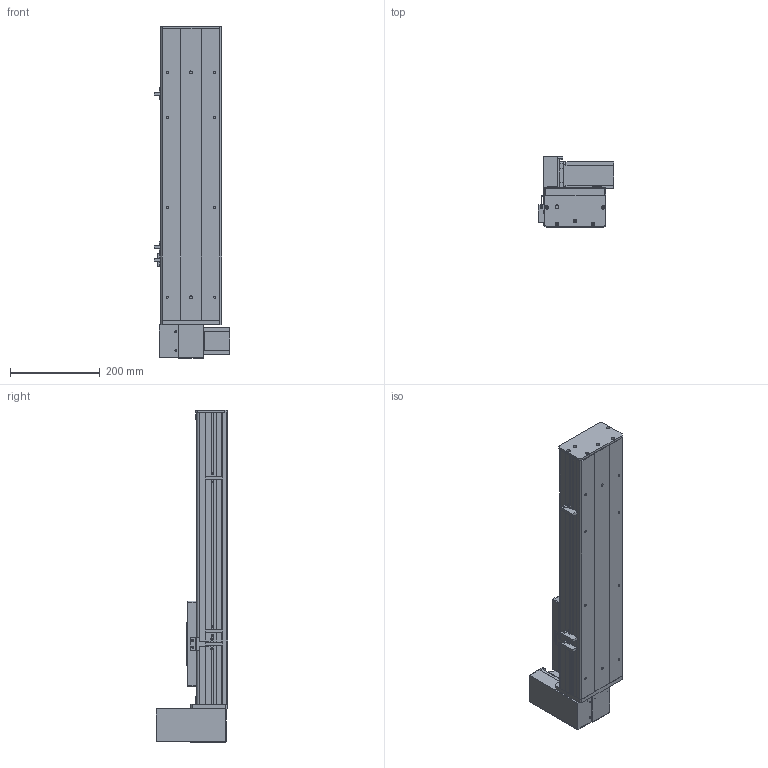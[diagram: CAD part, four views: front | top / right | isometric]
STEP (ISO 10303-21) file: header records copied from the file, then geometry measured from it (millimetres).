
FILE_DESCRIPTION (( 'STEP AP203' ), '1' );
FILE_NAME ('Y135CB-D90-S350-UR-P400W.STEP', '2020-02-18T03:32:31', ( '微软用户' ), ( '微软中国' ), 'SwSTEP 2.0', 'SolidWorks 2017', '' );
FILE_SCHEMA (( 'CONFIG_CONTROL_DESIGN' ));
Length unit declared in the file: millimetre
Products named in the file (18): 35CB---喘謫眊楊擘啣; C-雄赽釱--; 0B-埴倛裔啣; Y10B--々湍喘謫眊--666; 0B-源倛裔啣; Y10B-耜蚾蟀諉啣----; 0B-萇儂楊擘啣; 00B-俋欶BM--; san松下电机400不带刹车----; Y135CB-D90-S350-UR-P400W; 5CB --掛极耜裔啣-; Y100-135俋离換覜ん--; C-詩湍揤踡え-陔; Y135CB-耜裔; Y135C-陔俋离換覜結え-; 135CB--詩湍-CE; 135CB---遴掛极.-; 5C--俋欶
Assembly tree (21 placements, depth 2):
  Y135CB-D90-S350-UR-P400W
    Y135CB-耜裔
    135CB---遴掛极.-
    35CB---喘謫眊楊擘啣
    0B-埴倛裔啣
    0B-源倛裔啣
    0B-萇儂楊擘啣
    san松下电机400不带刹车----
    5CB --掛极耜裔啣-  x2
    C-詩湍揤踡え-陔  x2
    135CB--詩湍-CE
    Y100-135俋离換覜ん--  x3
    Y135C-陔俋离換覜結え-
    5C--俋欶
    C-雄赽釱--
    Y10B--々湍喘謫眊--666
    Y10B-耜蚾蟀諉啣----
    00B-俋欶BM--
Bounding box: 167.5 x 158.7 x 738 mm (x, y, z)
Volume: 2698403.4 mm3; surface area: 1038606.4 mm2
Topology: 21 solids, 21 shells, 933 faces, 2473 edges, 1638 vertices
Faces by surface type: cylinder 461, plane 456, cone 16
Entity records: 28743 total; most frequent: DIRECTION 4773, CARTESIAN_POINT 4680, ORIENTED_EDGE 4422, EDGE_CURVE 2211, AXIS2_PLACEMENT_3D 1735, VERTEX_POINT 1466, VECTOR 1303, LINE 1303
